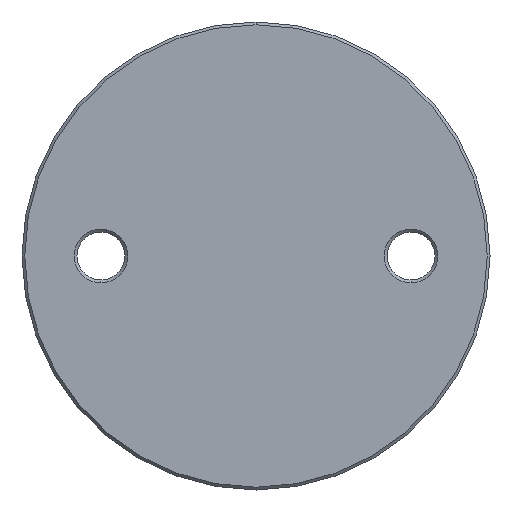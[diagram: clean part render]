
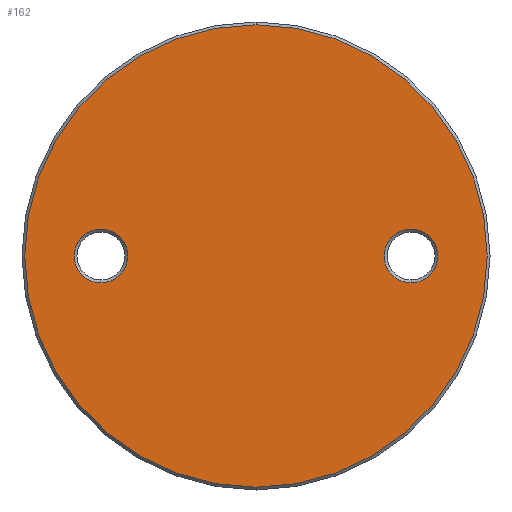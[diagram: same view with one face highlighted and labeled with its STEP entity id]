
A CAD part, front view. The second image highlights one B-rep face of the part: STEP entity #162.
In plain terms, the highlighted planar face has unit normal (0, -1, 0).
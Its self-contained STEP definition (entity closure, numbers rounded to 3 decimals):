
#150 = VERTEX_POINT ( 'NONE', #4886 ) ;
#162 = ADVANCED_FACE ( 'NONE', ( #2472, #1660, #2608 ), #2726, .T. ) ;
#495 = ORIENTED_EDGE ( 'NONE', *, *, #1308, .T. ) ;
#509 = VERTEX_POINT ( 'NONE', #3429 ) ;
#653 = DIRECTION ( 'NONE',  ( 0., 0., -1. ) ) ;
#671 = DIRECTION ( 'NONE',  ( 0., 1., 0. ) ) ;
#688 = CIRCLE ( 'NONE', #4152, 41. ) ;
#785 = VERTEX_POINT ( 'NONE', #3154 ) ;
#947 = CIRCLE ( 'NONE', #5162, 4.75 ) ;
#965 = CIRCLE ( 'NONE', #3560, 4.75 ) ;
#1282 = CIRCLE ( 'NONE', #3515, 41. ) ;
#1308 = EDGE_CURVE ( 'NONE', #150, #4116, #688, .T. ) ;
#1425 = DIRECTION ( 'NONE',  ( 0., 0., -1. ) ) ;
#1454 = DIRECTION ( 'NONE',  ( 0., 0., -1. ) ) ;
#1573 = EDGE_LOOP ( 'NONE', ( #5072, #2416 ) ) ;
#1610 = CARTESIAN_POINT ( 'NONE',  ( 0., -3., 0. ) ) ;
#1660 = FACE_BOUND ( 'NONE', #1573, .T. ) ;
#1678 = VERTEX_POINT ( 'NONE', #5265 ) ;
#1751 = VERTEX_POINT ( 'NONE', #1863 ) ;
#1801 = ORIENTED_EDGE ( 'NONE', *, *, #2263, .T. ) ;
#1853 = DIRECTION ( 'NONE',  ( 0., 1., 0. ) ) ;
#1863 = CARTESIAN_POINT ( 'NONE',  ( 27.5, -3., 4.75 ) ) ;
#2002 = EDGE_LOOP ( 'NONE', ( #1801, #495 ) ) ;
#2160 = CARTESIAN_POINT ( 'NONE',  ( 0., -3., 0. ) ) ;
#2263 = EDGE_CURVE ( 'NONE', #4116, #150, #1282, .T. ) ;
#2282 = CARTESIAN_POINT ( 'NONE',  ( 27.5, -3., 0. ) ) ;
#2416 = ORIENTED_EDGE ( 'NONE', *, *, #2421, .T. ) ;
#2421 = EDGE_CURVE ( 'NONE', #509, #1678, #947, .T. ) ;
#2472 = FACE_BOUND ( 'NONE', #3369, .T. ) ;
#2596 = DIRECTION ( 'NONE',  ( 0., -1., 0. ) ) ;
#2608 = FACE_OUTER_BOUND ( 'NONE', #2002, .T. ) ;
#2726 = PLANE ( 'NONE',  #3308 ) ;
#2772 = DIRECTION ( 'NONE',  ( 0., -1., 0. ) ) ;
#2912 = DIRECTION ( 'NONE',  ( 0., 0., -1. ) ) ;
#3154 = CARTESIAN_POINT ( 'NONE',  ( 27.5, -3., -4.75 ) ) ;
#3162 = CARTESIAN_POINT ( 'NONE',  ( 0., -3., 41.5 ) ) ;
#3308 = AXIS2_PLACEMENT_3D ( 'NONE', #3162, #2772, #3622 ) ;
#3369 = EDGE_LOOP ( 'NONE', ( #4273, #3887 ) ) ;
#3429 = CARTESIAN_POINT ( 'NONE',  ( -27.5, -3., 4.75 ) ) ;
#3515 = AXIS2_PLACEMENT_3D ( 'NONE', #2160, #2596, #5228 ) ;
#3560 = AXIS2_PLACEMENT_3D ( 'NONE', #4784, #4807, #4762 ) ;
#3622 = DIRECTION ( 'NONE',  ( 0., 0., -1. ) ) ;
#3887 = ORIENTED_EDGE ( 'NONE', *, *, #5274, .T. ) ;
#3945 = DIRECTION ( 'NONE',  ( 0., 1., 0. ) ) ;
#4116 = VERTEX_POINT ( 'NONE', #5665 ) ;
#4152 = AXIS2_PLACEMENT_3D ( 'NONE', #1610, #5581, #2912 ) ;
#4273 = ORIENTED_EDGE ( 'NONE', *, *, #4761, .T. ) ;
#4466 = AXIS2_PLACEMENT_3D ( 'NONE', #4912, #1853, #1454 ) ;
#4493 = AXIS2_PLACEMENT_3D ( 'NONE', #2282, #3945, #1425 ) ;
#4547 = CARTESIAN_POINT ( 'NONE',  ( -27.5, -3., 0. ) ) ;
#4711 = CIRCLE ( 'NONE', #4493, 4.75 ) ;
#4761 = EDGE_CURVE ( 'NONE', #785, #1751, #4711, .T. ) ;
#4762 = DIRECTION ( 'NONE',  ( 0., 0., -1. ) ) ;
#4784 = CARTESIAN_POINT ( 'NONE',  ( 27.5, -3., 0. ) ) ;
#4807 = DIRECTION ( 'NONE',  ( 0., 1., 0. ) ) ;
#4886 = CARTESIAN_POINT ( 'NONE',  ( 0., -3., -41. ) ) ;
#4912 = CARTESIAN_POINT ( 'NONE',  ( -27.5, -3., 0. ) ) ;
#5072 = ORIENTED_EDGE ( 'NONE', *, *, #5501, .T. ) ;
#5162 = AXIS2_PLACEMENT_3D ( 'NONE', #4547, #671, #653 ) ;
#5187 = CIRCLE ( 'NONE', #4466, 4.75 ) ;
#5228 = DIRECTION ( 'NONE',  ( 0., 0., -1. ) ) ;
#5265 = CARTESIAN_POINT ( 'NONE',  ( -27.5, -3., -4.75 ) ) ;
#5274 = EDGE_CURVE ( 'NONE', #1751, #785, #965, .T. ) ;
#5501 = EDGE_CURVE ( 'NONE', #1678, #509, #5187, .T. ) ;
#5581 = DIRECTION ( 'NONE',  ( 0., -1., 0. ) ) ;
#5665 = CARTESIAN_POINT ( 'NONE',  ( 0., -3., 41. ) ) ;
